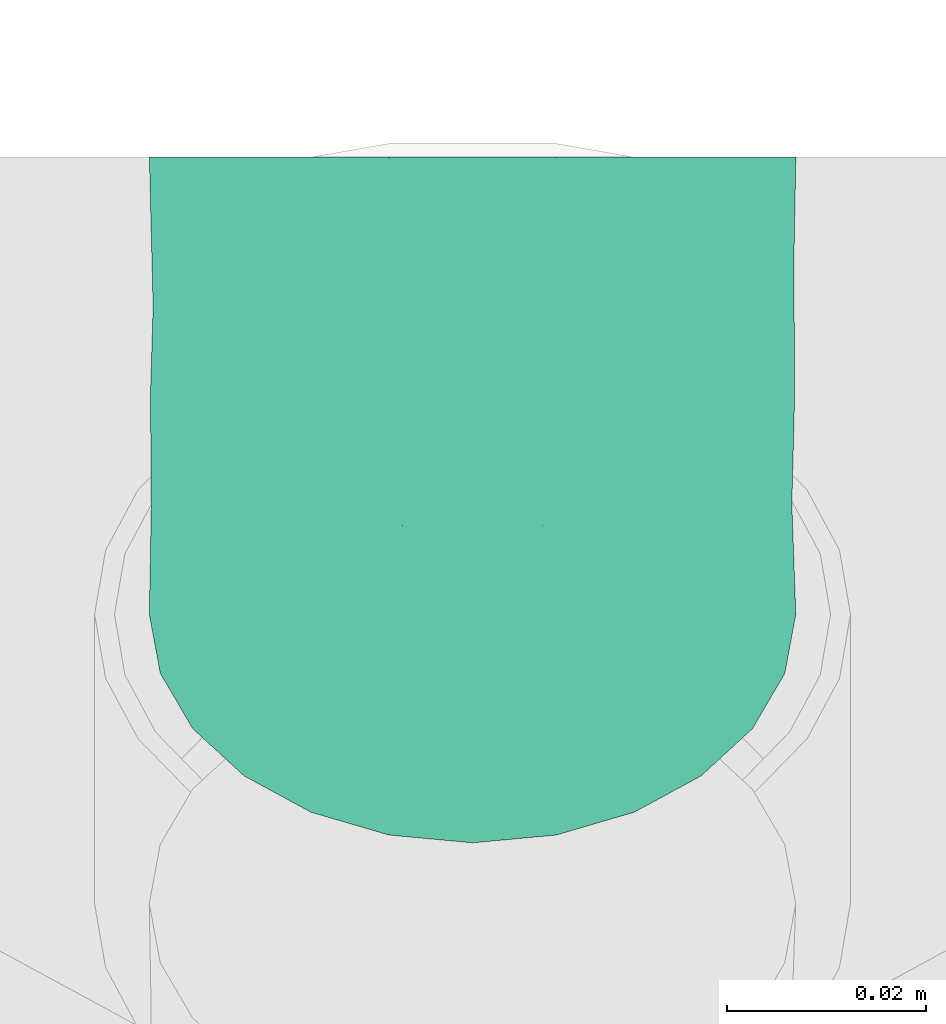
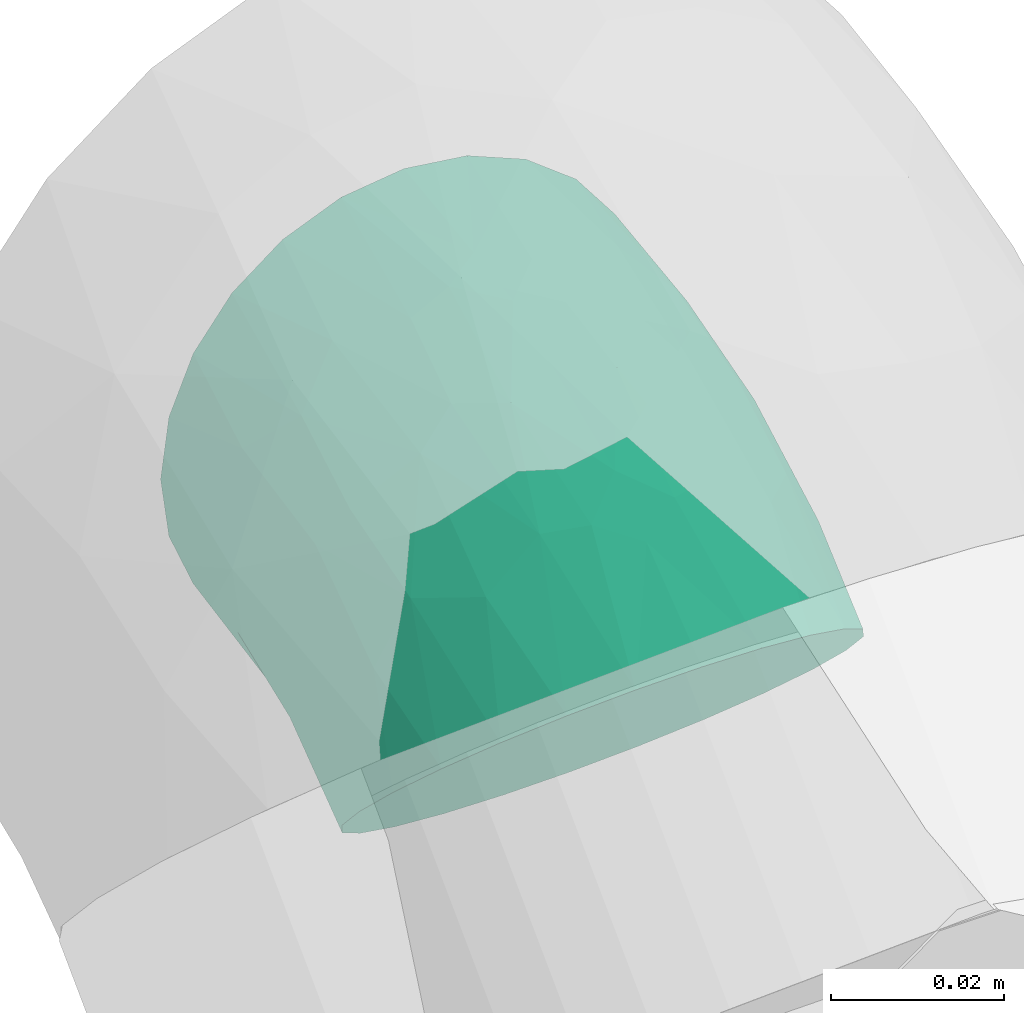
# One storey, part 131 of 156: 1 flow fitting.
"""IFC2X3 building model written with IfcOpenShell, lengths in millimetres."""

from ifc_helpers import new_model, entity, si_unit, converted_unit, derived_unit, direction, frame, origin_with_axes, place, context, subcontext, project, spatial, open_shell, surface_model, source, transform, mapped, type_object, element, save


model = new_model("IFC2X3")

# Units and contexts
model_context = context("Model", 3, precision=0.01, world=frame((0.0, 4.29681676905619e-09, 0.0)), true_north=direction((4.01073788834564e-13, 1.0)))
plan_context = context("Plan", 3, precision=0.01, world=frame((0.0, 4.29681676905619e-09, 0.0)), true_north=direction((4.01073788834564e-13, 1.0)))
body_context = subcontext(model_context, "Body", "Model", "MODEL_VIEW")
ifc_project = project(units=[converted_unit("PLANEANGLEUNIT", "DEGREE", entity("IfcPositiveLengthMeasure", 0.0174532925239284), si_unit("PLANEANGLEUNIT", "RADIAN"), dimensions=[0, 0, 0, 0, 0, 0, 0]), si_unit("AREAUNIT", "SQUARE_METRE"), si_unit("LENGTHUNIT", "METRE", prefix="MILLI"), si_unit("MASSUNIT", "GRAM", prefix="KILO"), si_unit("POWERUNIT", "WATT"), si_unit("PRESSUREUNIT", "PASCAL", prefix="KILO"), si_unit("FORCEUNIT", "NEWTON", prefix="KILO"), si_unit("ELECTRICVOLTAGEUNIT", "VOLT"), si_unit("ELECTRICCURRENTUNIT", "AMPERE"), si_unit("THERMODYNAMICTEMPERATUREUNIT", "DEGREE_CELSIUS"), si_unit("TIMEUNIT", "SECOND"), si_unit("VOLUMEUNIT", "CUBIC_METRE"), derived_unit("LINEARVELOCITYUNIT", [(si_unit("LENGTHUNIT", "METRE"), 1), (si_unit("TIMEUNIT", "SECOND"), -1)]), derived_unit("VOLUMETRICFLOWRATEUNIT", [(si_unit("VOLUMEUNIT", "CUBIC_METRE"), 1), (si_unit("TIMEUNIT", "SECOND"), -1)]), derived_unit("THERMALTRANSMITTANCEUNIT", [(si_unit("POWERUNIT", "WATT"), 1), (si_unit("THERMODYNAMICTEMPERATUREUNIT", "KELVIN"), -1), (si_unit("AREAUNIT", "SQUARE_METRE"), -1)]), derived_unit("SOUNDPRESSUREUNIT", [(si_unit("PRESSUREUNIT", "PASCAL"), 1)])], contexts=[model_context, plan_context])

# Site, building, storey
site_placement = place(None, frame((0.0, -4.29681676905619e-09, 0.0), z_axis=(0.0, 0.0, 1.0), x_axis=(1.0, 0.0, 0.0)))
site = spatial("IfcSite", under=ifc_project, at=site_placement, CompositionType="ELEMENT")
building_placement = place(site_placement, frame((0.0, 4.29681676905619e-09, 0.0), z_axis=(0.0, 0.0, 1.0), x_axis=(1.0, 0.0, 0.0)))
building = spatial("IfcBuilding", under=site, at=building_placement, Name="mc-building", CompositionType="ELEMENT")
storey_placement = place(building_placement, frame((0.0, 0.0, 205200.0), z_axis=(0.0, 0.0, 1.0), x_axis=(1.0, 0.0, 0.0)))
storey = spatial("IfcBuildingStorey", under=building, at=storey_placement, Name="Nivå D + 1,2 m", CompositionType="ELEMENT", Elevation=205200.0)

# Flow fitting
pipe_fitting_type = type_object("IfcPipeFittingType", Name="magi_pipe_elbow_short_001", PredefinedType="BEND")
shared_shape = source(origin_with_axes(), body_context, "Body", "SurfaceModel", [
    surface_model("IfcShellBasedSurfaceModel", [(-26.92388, 16.25, -28.14582), (-26.92388, 8.41162, -31.39259), (-26.92388, 0.0, -32.5), (-26.92388, -22.98097, -22.98097), (-26.92388, 31.39259, -8.41162), (-26.92388, 28.14582, -16.25), (-26.92388, 22.98097, -22.98097), (-26.92388, -32.5, 0.0), (-26.92388, -31.39259, 8.41162), (-26.92388, -16.25, -28.14582), (-26.92388, -8.41162, -31.39259), (-26.92388, -31.39259, -8.41162), (-26.92388, -28.14582, -16.25), (-26.92388, -22.98097, 22.98097), (-26.92388, 31.39259, 8.41162), (-26.92388, 28.14582, 16.25), (-26.92388, 16.25, 28.14582), (-26.92388, 22.98097, 22.98097), (-26.92388, 0.0, 32.5), (-26.92388, 8.41162, 31.39259), (-26.92388, -28.14582, 16.25), (-26.92388, -8.41162, 31.39259), (-26.92388, -16.25, 28.14582), (-26.92388, 32.5, 0.0), (19.03806, 19.03806, -32.5), (13.09015, 24.98597, -31.39259), (7.54757, 30.52854, -28.14582), (35.28806, 2.78806, -22.98097), (2.78806, 35.28806, -22.98097), (-0.86404, 38.94016, -16.25), (-3.15985, 41.23597, -8.41162), (24.98597, 13.09015, -31.39259), (30.52854, 7.54757, -28.14582), (41.23597, -3.15985, -8.41162), (38.94016, -0.86404, -16.25), (42.01903, -3.94291, 0.0), (30.52854, 7.54757, 28.14582), (19.03806, 19.03806, 32.5), (24.98597, 13.09015, 31.39259), (-3.15985, 41.23597, 8.41162), (-3.94291, 42.01903, 0.0), (8.27755, -19.98378, 18.11127), (-7.19012, -18.36825, 25.07827), (-10.49464, -24.85635, 19.03), (-10.85887, -30.385, 0.0), (-1.68902, -29.17777, 0.0), (-6.93692, -29.94166, 5.54969), (38.94016, -0.86404, 16.25), (35.28806, 2.78806, 22.98097), (24.99692, -10.15526, 19.03), (-12.87772, -11.91748, 29.70333), (3.33702, -8.05628, 29.29384), (13.09015, 24.98597, 31.39259), (0.96468, 19.53831, 30.33412), (5.87525, 15.38404, 32.02729), (-9.6998, -3.12918, 32.06943), (-3.09119, 7.4628, 32.3858), (-16.28399, 4.50357, 32.30277), (-9.23169, 22.28727, 26.53318), (-14.33241, 27.25604, 20.50969), (17.53286, 0.67899, 29.70333), (-12.48753, 13.52414, 30.38292), (7.54757, 30.52854, 28.14582), (2.78806, 35.28806, 22.98097), (12.54235, -21.27083, 12.8085), (-5.82736, -28.11742, 11.28642), (10.09042, -24.36044, 7.06389), (-13.38854, 32.32279, 13.3524), (41.23597, -3.15985, 8.41162), (26.07709, -16.26681, 5.54969), (29.16382, -13.80706, 0.0), (-13.01769, 34.82467, 6.82863), (24.00259, -15.76146, 11.28642), (9.07146, 4.64613, 32.06943), (18.0725, -7.90413, 25.07827), (-0.86404, 38.94016, 16.25), (-14.48667, 34.97391, 0.0), (5.45506, -13.16968, 25.91695), (10.06855, -24.30762, 0.0), (21.82612, -19.43748, 0.0), (-9.6998, -3.12918, -32.06943), (-6.93692, -29.94166, -5.54969), (10.09042, -24.36044, -7.06389), (9.07146, 4.64613, -32.06943), (-14.4978, 13.13354, -30.33412), (-15.03259, 6.72373, -32.02729), (-9.13839, 29.40748, -20.50969), (18.0725, -7.90413, -25.07827), (-13.38854, 32.32279, -13.3524), (24.00259, -15.76146, -11.28641), (-15.41986, 33.82966, -6.82863), (-0.733, 18.39302, -30.38292), (-5.82736, -28.11742, -11.28641), (-9.23169, 22.28727, -26.53318), (-10.49464, -24.85635, -19.03), (-7.19012, -18.36825, -25.07827), (5.45506, -13.16968, -25.91695), (8.27755, -19.98378, -18.11127), (-12.87772, -11.91748, -29.70333), (17.53286, 0.67899, -29.70333), (3.33702, -8.05628, -29.29384), (26.07709, -16.26681, -5.54969), (8.33002, 14.69902, -32.30277), (6.17196, -23.90953, -12.80849), (24.99692, -10.15526, -19.03), (-3.09119, 7.4628, -32.3858)], [open_shell([[[0, 1, 2]], [[0, 2, 3]], [[4, 5, 6]], [[6, 0, 7]], [[6, 7, 8]], [[9, 3, 10]], [[3, 2, 10]], [[11, 7, 12]], [[3, 12, 7]], [[3, 7, 0]], [[8, 4, 6]], [[13, 14, 4]], [[15, 14, 16]], [[13, 16, 14]], [[17, 15, 16]], [[16, 18, 19]], [[20, 13, 8]], [[8, 13, 4]], [[21, 18, 22]], [[16, 13, 22]], [[16, 22, 18]], [[23, 4, 14]], [[24, 25, 26]], [[27, 24, 26]], [[28, 29, 30]], [[31, 27, 32]], [[31, 24, 27]], [[27, 33, 34]], [[33, 27, 35]], [[36, 37, 38]], [[39, 30, 40]], [[41, 42, 43]], [[44, 45, 46]], [[22, 13, 42]], [[47, 48, 49]], [[50, 42, 51]], [[43, 42, 13]], [[52, 53, 54]], [[21, 22, 50]], [[55, 56, 57]], [[18, 21, 55]], [[17, 58, 59]], [[36, 38, 60]], [[57, 19, 18]], [[16, 61, 58]], [[8, 44, 46]], [[62, 63, 58]], [[64, 65, 66]], [[58, 17, 16]], [[13, 20, 43]], [[15, 59, 67]], [[14, 15, 67]], [[68, 69, 70]], [[71, 23, 14]], [[72, 64, 66]], [[65, 46, 66]], [[16, 19, 61]], [[37, 54, 73]], [[48, 36, 74]], [[75, 39, 67]], [[73, 38, 37]], [[41, 43, 65]], [[48, 74, 49]], [[56, 54, 53]], [[74, 36, 60]], [[20, 65, 43]], [[69, 68, 72]], [[41, 49, 74]], [[57, 61, 19]], [[41, 64, 49]], [[14, 67, 71]], [[20, 8, 65]], [[76, 71, 40]], [[42, 77, 51]], [[39, 71, 67]], [[51, 73, 55]], [[75, 67, 59]], [[51, 60, 73]], [[75, 59, 63]], [[56, 55, 73]], [[52, 62, 53]], [[53, 58, 61]], [[50, 55, 21]], [[15, 17, 59]], [[72, 68, 47]], [[72, 47, 49]], [[77, 41, 74]], [[63, 59, 58]], [[58, 53, 62]], [[56, 53, 61]], [[42, 50, 22]], [[55, 50, 51]], [[73, 60, 38]], [[74, 60, 51]], [[8, 7, 44]], [[66, 45, 78]], [[8, 46, 65]], [[45, 66, 46]], [[69, 66, 79]], [[70, 69, 79]], [[70, 35, 68]], [[66, 69, 72]], [[73, 54, 56]], [[37, 52, 54]], [[55, 57, 18]], [[61, 57, 56]], [[41, 77, 42]], [[74, 51, 77]], [[40, 71, 39]], [[71, 76, 23]], [[49, 64, 72]], [[65, 64, 41]], [[79, 66, 78]], [[10, 2, 80]], [[45, 81, 82]], [[24, 31, 83]], [[84, 85, 1]], [[5, 86, 6]], [[32, 27, 87]], [[88, 86, 5]], [[34, 33, 89]], [[4, 90, 88]], [[26, 25, 91]], [[11, 81, 44]], [[0, 84, 1]], [[81, 11, 92]], [[28, 93, 86]], [[92, 12, 94]], [[94, 3, 95]], [[3, 9, 95]], [[96, 97, 95]], [[11, 12, 92]], [[3, 94, 12]], [[98, 9, 10]], [[99, 83, 31]], [[30, 29, 88]], [[100, 98, 80]], [[23, 76, 90]], [[97, 94, 95]], [[40, 30, 90]], [[100, 80, 83]], [[28, 26, 93]], [[88, 5, 4]], [[29, 86, 88]], [[98, 95, 9]], [[91, 93, 26]], [[85, 80, 2]], [[93, 91, 84]], [[6, 93, 0]], [[33, 70, 101]], [[102, 25, 24]], [[99, 31, 32]], [[103, 89, 82]], [[27, 104, 87]], [[100, 99, 87]], [[27, 34, 104]], [[105, 102, 83]], [[104, 97, 87]], [[105, 83, 80]], [[101, 70, 79]], [[102, 91, 25]], [[105, 85, 84]], [[81, 92, 82]], [[97, 103, 94]], [[87, 96, 100]], [[34, 89, 104]], [[30, 88, 90]], [[97, 104, 89]], [[29, 28, 86]], [[6, 86, 93]], [[93, 84, 0]], [[105, 84, 91]], [[80, 98, 10]], [[95, 98, 100]], [[87, 99, 32]], [[83, 99, 100]], [[44, 81, 45]], [[44, 7, 11]], [[103, 82, 92]], [[101, 82, 89]], [[82, 79, 78]], [[33, 35, 70]], [[82, 101, 79]], [[33, 101, 89]], [[80, 85, 105]], [[2, 1, 85]], [[83, 102, 24]], [[91, 102, 105]], [[97, 96, 87]], [[95, 100, 96]], [[23, 90, 4]], [[90, 76, 40]], [[94, 103, 92]], [[89, 103, 97]], [[45, 82, 78]], [[68, 35, 26]], [[28, 68, 26]], [[26, 35, 27]], [[28, 30, 39]], [[68, 28, 39]], [[63, 39, 75]], [[39, 62, 68]], [[62, 39, 63]], [[52, 68, 62]], [[68, 48, 47]], [[48, 68, 37]], [[37, 36, 48]], [[68, 52, 37]]])]),
])
flow_fitting_placement = place(storey_placement, frame((330095.2903, 462651.63155, 4230.5), z_axis=(0.999999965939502, 0.0, -0.00026099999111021), x_axis=(0.0, -1.0, 0.0)))
element("IfcFlowFitting", 1, at=flow_fitting_placement, inside=storey, type_object=pipe_fitting_type, Name="magi_pipe_elbow_short_001", context=body_context, shape_type="MappedRepresentation", body=[
    mapped(shared_shape, transform((0.0, 0.0, 0.0), scale=1.0)),
])

save(model, "model.ifc")
